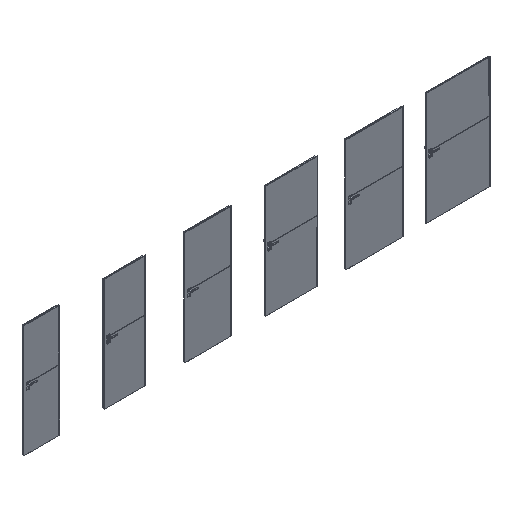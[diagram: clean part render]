
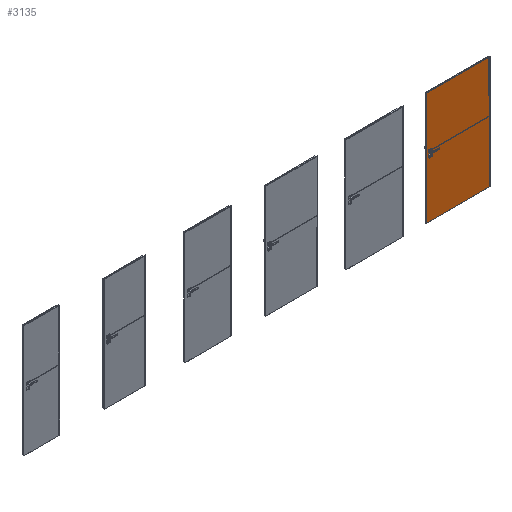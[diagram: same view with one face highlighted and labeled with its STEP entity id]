
A CAD part, isometric view. The second image highlights one B-rep face of the part: STEP entity #3135.
In plain terms, the highlighted planar face has unit normal (0, -1, 0).
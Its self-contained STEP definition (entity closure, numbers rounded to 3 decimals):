
#1923=CIRCLE('',#20171,4.15);
#3135=ADVANCED_FACE('',(#4785),#3901,.F.);
#3901=PLANE('',#20172);
#4785=FACE_OUTER_BOUND('',#5997,.T.);
#5997=EDGE_LOOP('',(#9885,#9886,#9887,#9888,#9889,#9890,#9891,#9892));
#9885=ORIENTED_EDGE('',*,*,#15133,.F.);
#9886=ORIENTED_EDGE('',*,*,#15101,.F.);
#9887=ORIENTED_EDGE('',*,*,#15132,.F.);
#9888=ORIENTED_EDGE('',*,*,#15134,.T.);
#9889=ORIENTED_EDGE('',*,*,#15135,.T.);
#9890=ORIENTED_EDGE('',*,*,#15096,.F.);
#9891=ORIENTED_EDGE('',*,*,#15136,.T.);
#9892=ORIENTED_EDGE('',*,*,#15137,.F.);
#12830=VERTEX_POINT('',#34528);
#12831=VERTEX_POINT('',#34530);
#12835=VERTEX_POINT('',#34538);
#12836=VERTEX_POINT('',#34540);
#12862=VERTEX_POINT('',#34600);
#12863=VERTEX_POINT('',#34604);
#12864=VERTEX_POINT('',#34606);
#12865=VERTEX_POINT('',#34609);
#15096=EDGE_CURVE('',#12830,#12831,#17021,.T.);
#15101=EDGE_CURVE('',#12835,#12836,#17026,.T.);
#15132=EDGE_CURVE('',#12862,#12835,#17049,.T.);
#15133=EDGE_CURVE('',#12836,#12863,#17050,.T.);
#15134=EDGE_CURVE('',#12862,#12864,#17051,.T.);
#15135=EDGE_CURVE('',#12864,#12831,#17052,.T.);
#15136=EDGE_CURVE('',#12830,#12865,#17053,.T.);
#15137=EDGE_CURVE('',#12863,#12865,#1923,.T.);
#17021=LINE('',#34529,#18473);
#17026=LINE('',#34539,#18478);
#17049=LINE('',#34601,#18501);
#17050=LINE('',#34603,#18502);
#17051=LINE('',#34605,#18503);
#17052=LINE('',#34607,#18504);
#17053=LINE('',#34608,#18505);
#18473=VECTOR('',#24122,1.);
#18478=VECTOR('',#24127,1.);
#18501=VECTOR('',#24174,1.);
#18502=VECTOR('',#24177,1.);
#18503=VECTOR('',#24178,1.);
#18504=VECTOR('',#24179,1.);
#18505=VECTOR('',#24180,1.);
#20171=AXIS2_PLACEMENT_3D('',#34610,#24181,#24182);
#20172=AXIS2_PLACEMENT_3D('',#34611,#24183,#24184);
#24122=DIRECTION('',(0.,0.,-1.));
#24127=DIRECTION('',(0.,0.,-1.));
#24174=DIRECTION('',(1.,0.,0.));
#24177=DIRECTION('',(-1.,0.,0.));
#24178=DIRECTION('',(0.,0.,-1.));
#24179=DIRECTION('',(1.,0.,0.));
#24180=DIRECTION('',(-1.,0.,0.));
#24181=DIRECTION('',(0.,-1.,0.));
#24182=DIRECTION('',(0.,0.,-1.));
#24183=DIRECTION('',(0.,1.,0.));
#24184=DIRECTION('',(-1.,0.,0.));
#34528=CARTESIAN_POINT('',(8072.,-39.3,1099.85));
#34529=CARTESIAN_POINT('',(8072.,-39.3,2030.));
#34530=CARTESIAN_POINT('',(8072.,-39.3,2.));
#34538=CARTESIAN_POINT('',(8072.,-39.3,2030.));
#34539=CARTESIAN_POINT('',(8072.,-39.3,2030.));
#34540=CARTESIAN_POINT('',(8072.,-39.3,1108.15));
#34600=CARTESIAN_POINT('',(6928.,-39.3,2030.));
#34601=CARTESIAN_POINT('',(7178.,-39.3,2030.));
#34603=CARTESIAN_POINT('',(8072.,-39.3,1108.15));
#34604=CARTESIAN_POINT('',(7035.15,-39.3,1108.15));
#34605=CARTESIAN_POINT('',(6928.,-39.3,2030.));
#34606=CARTESIAN_POINT('',(6928.,-39.3,2.));
#34607=CARTESIAN_POINT('',(7178.,-39.3,2.));
#34608=CARTESIAN_POINT('',(8072.,-39.3,1099.85));
#34609=CARTESIAN_POINT('',(7035.15,-39.3,1099.85));
#34610=CARTESIAN_POINT('',(7035.15,-39.3,1104.));
#34611=CARTESIAN_POINT('',(7178.,-39.3,2030.));
